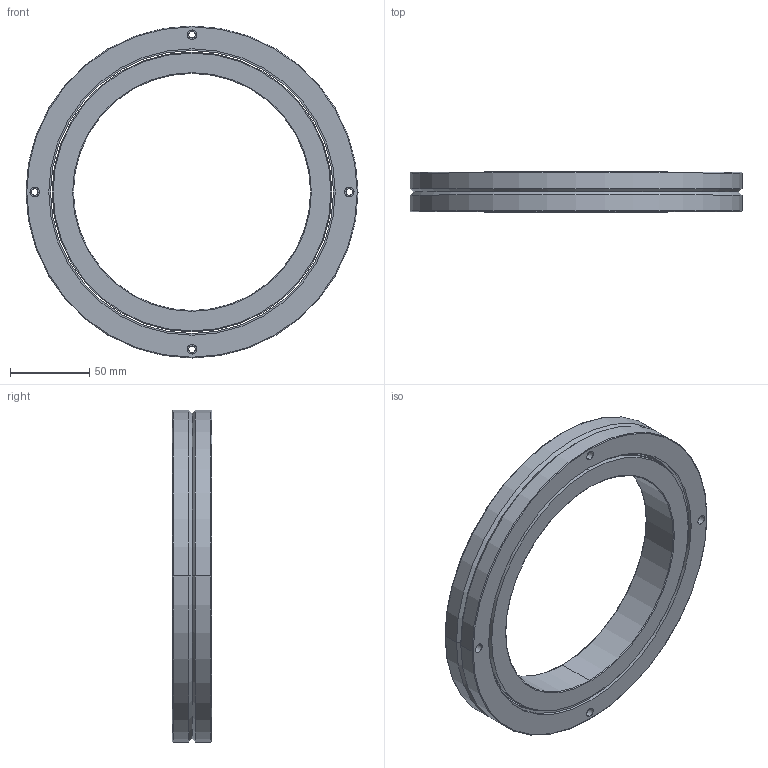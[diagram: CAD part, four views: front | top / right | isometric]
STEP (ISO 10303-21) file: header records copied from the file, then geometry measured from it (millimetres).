
FILE_DESCRIPTION((''),'2;1');
FILE_NAME('RB15025','2015-08-26T',('Administrator'),(''),'PRO/ENGINEER BY PARAMETRIC TECHNOLOGY CORPORATION, 2010180','PRO/ENGINEER BY PARAMETRIC TECHNOLOGY CORPORATION, 2010180','');
FILE_SCHEMA(('AUTOMOTIVE_DESIGN_CC2 { 1 2 10303 214 -1 1 5 2 }'));
Length unit declared in the file: millimetre
Products named in the file (1): RB15025
Bounding box: 210 x 25 x 210 mm (x, y, z)
Volume: 345599.2 mm3; surface area: 102918.3 mm2
Topology: 2 solids, 2 shells, 88 faces, 184 edges, 114 vertices
Faces by surface type: cylinder 50, plane 18, cone 12, torus 8
Entity records: 2497 total; most frequent: DIRECTION 482, CARTESIAN_POINT 386, ORIENTED_EDGE 368, AXIS2_PLACEMENT_3D 210, EDGE_CURVE 184, CIRCLE 122, VERTEX_POINT 114, EDGE_LOOP 114
